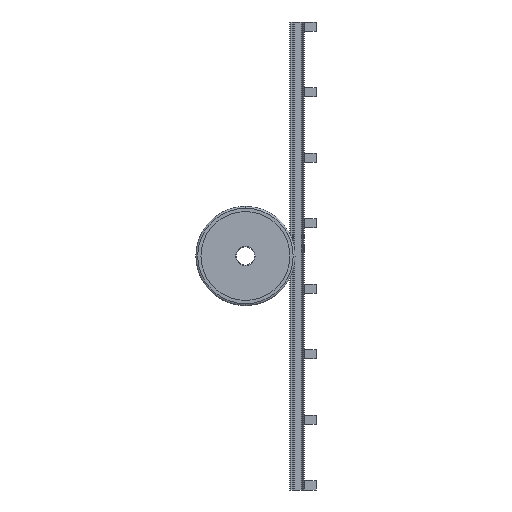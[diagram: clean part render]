
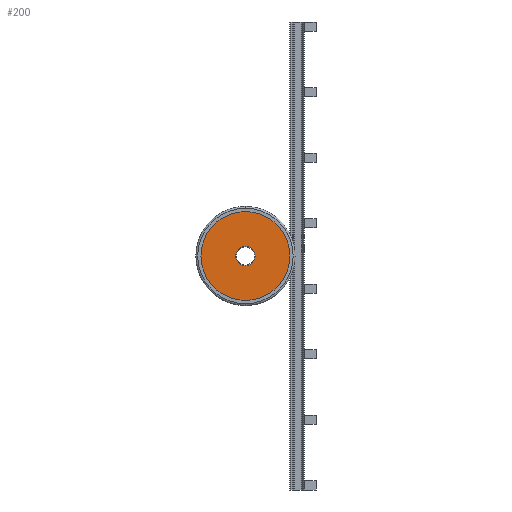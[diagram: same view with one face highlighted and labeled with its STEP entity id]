
A CAD part, left-side view. The second image highlights one B-rep face of the part: STEP entity #200.
In plain terms, the highlighted planar face has unit normal (-1, 0, 0).
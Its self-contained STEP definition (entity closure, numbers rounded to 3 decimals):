
#93=FACE_BOUND('',#404,.F.);
#96=PLANE('',#2010);
#200=ADVANCED_FACE('',(#93,#301),#96,.T.);
#301=FACE_OUTER_BOUND('',#405,.F.);
#404=EDGE_LOOP('',(#551,#552));
#405=EDGE_LOOP('',(#553,#554));
#551=ORIENTED_EDGE('',*,*,#1396,.T.);
#552=ORIENTED_EDGE('',*,*,#1369,.T.);
#553=ORIENTED_EDGE('',*,*,#1395,.F.);
#554=ORIENTED_EDGE('',*,*,#1368,.F.);
#1368=EDGE_CURVE('',#1667,#1666,#1598,.T.);
#1369=EDGE_CURVE('',#1665,#1664,#1599,.T.);
#1395=EDGE_CURVE('',#1666,#1667,#1619,.T.);
#1396=EDGE_CURVE('',#1664,#1665,#1620,.T.);
#1598=CIRCLE('',#1969,475.);
#1599=CIRCLE('',#1970,102.5);
#1619=CIRCLE('',#1990,475.);
#1620=CIRCLE('',#1991,102.5);
#1664=VERTEX_POINT('',#2727);
#1665=VERTEX_POINT('',#2728);
#1666=VERTEX_POINT('',#2729);
#1667=VERTEX_POINT('',#2730);
#1969=AXIS2_PLACEMENT_3D('',#2749,#2175,#2176);
#1970=AXIS2_PLACEMENT_3D('',#2750,#2177,#2178);
#1990=AXIS2_PLACEMENT_3D('',#2776,#2223,#2224);
#1991=AXIS2_PLACEMENT_3D('',#2777,#2225,#2226);
#2010=AXIS2_PLACEMENT_3D('',#2796,#2263,#2264);
#2175=DIRECTION('',(-1.,0.,0.));
#2176=DIRECTION('',(0.,0.,-1.));
#2177=DIRECTION('',(-1.,0.,0.));
#2178=DIRECTION('',(0.,0.,-1.));
#2223=DIRECTION('',(-1.,0.,0.));
#2224=DIRECTION('',(0.,0.,1.));
#2225=DIRECTION('',(-1.,0.,0.));
#2226=DIRECTION('',(0.,0.,1.));
#2263=DIRECTION('',(-1.,0.,0.));
#2264=DIRECTION('',(0.,-1.,0.));
#2727=CARTESIAN_POINT('',(-17.,630.83,2602.5));
#2728=CARTESIAN_POINT('',(-17.,630.83,2397.5));
#2729=CARTESIAN_POINT('',(-17.,630.83,2975.));
#2730=CARTESIAN_POINT('',(-17.,630.83,2025.));
#2749=CARTESIAN_POINT('',(-17.,630.83,2500.));
#2750=CARTESIAN_POINT('',(-17.,630.83,2500.));
#2776=CARTESIAN_POINT('',(-17.,630.83,2500.));
#2777=CARTESIAN_POINT('',(-17.,630.83,2500.));
#2796=CARTESIAN_POINT('',(-17.,1115.33,2015.5));
